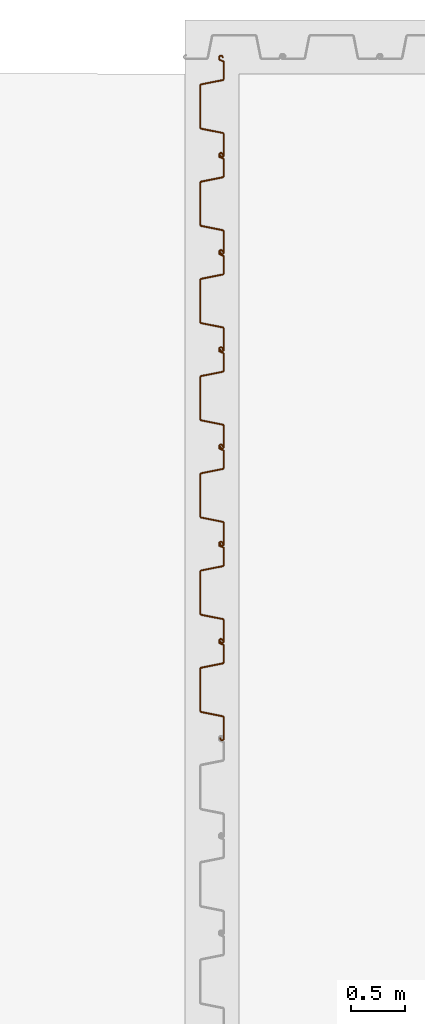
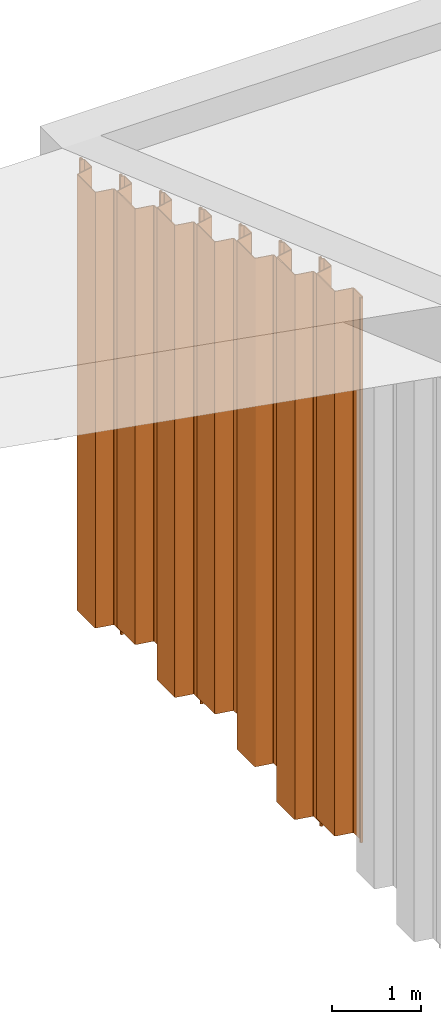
# One storey, part 14 of 32: 7 proxies.
"""IFC2X3 building model written with IfcOpenShell, lengths in millimetres."""

from ifc_helpers import new_model, entity, si_unit, converted_unit, derived_unit, direction, frame, frame_2d, origin, place, context, subcontext, project, spatial, polyline, circle_curve, parameter, trimmed, segment, composite_curve, outline, extrude, source, transform, mapped, type_object, type_shapes, element, save


model = new_model("IFC2X3")

# Units and contexts
model_context = context("Model", 3, precision=0.01, world=origin(), true_north=direction((6.12303176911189e-17, 1.0)))
body_context = subcontext(model_context, "Body", "Model", "MODEL_VIEW")
ifc_project = project(units=[si_unit("LENGTHUNIT", "METRE", prefix="MILLI"), si_unit("AREAUNIT", "SQUARE_METRE"), si_unit("VOLUMEUNIT", "CUBIC_METRE"), converted_unit("PLANEANGLEUNIT", "DEGREE", entity("IfcRatioMeasure", 0.0174532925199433), si_unit("PLANEANGLEUNIT", "RADIAN"), dimensions=[0, 0, 0, 0, 0, 0, 0]), si_unit("MASSUNIT", "GRAM", prefix="KILO"), derived_unit("MASSDENSITYUNIT", [(si_unit("MASSUNIT", "GRAM", prefix="KILO"), 1), (si_unit("LENGTHUNIT", "METRE"), -3)]), si_unit("TIMEUNIT", "SECOND"), si_unit("FREQUENCYUNIT", "HERTZ"), si_unit("THERMODYNAMICTEMPERATUREUNIT", "DEGREE_CELSIUS"), derived_unit("THERMALTRANSMITTANCEUNIT", [(si_unit("MASSUNIT", "GRAM", prefix="KILO"), 1), (si_unit("THERMODYNAMICTEMPERATUREUNIT", "KELVIN"), -1), (si_unit("TIMEUNIT", "SECOND"), -3)]), derived_unit("VOLUMETRICFLOWRATEUNIT", [(si_unit("LENGTHUNIT", "METRE"), 3), (si_unit("TIMEUNIT", "SECOND"), -1)]), si_unit("ELECTRICCURRENTUNIT", "AMPERE"), si_unit("ELECTRICVOLTAGEUNIT", "VOLT"), si_unit("POWERUNIT", "WATT"), si_unit("FORCEUNIT", "NEWTON", prefix="KILO"), si_unit("ILLUMINANCEUNIT", "LUX"), si_unit("LUMINOUSFLUXUNIT", "LUMEN"), si_unit("LUMINOUSINTENSITYUNIT", "CANDELA"), derived_unit("USERDEFINED", [(si_unit("MASSUNIT", "GRAM", prefix="KILO"), -1), (si_unit("LENGTHUNIT", "METRE"), -2), (si_unit("TIMEUNIT", "SECOND"), 3), (si_unit("LUMINOUSFLUXUNIT", "LUMEN"), 1)]), derived_unit("LINEARVELOCITYUNIT", [(si_unit("LENGTHUNIT", "METRE"), 1), (si_unit("TIMEUNIT", "SECOND"), -1)]), si_unit("PRESSUREUNIT", "PASCAL"), derived_unit("USERDEFINED", [(si_unit("LENGTHUNIT", "METRE"), -2), (si_unit("MASSUNIT", "GRAM", prefix="KILO"), 1), (si_unit("TIMEUNIT", "SECOND"), -2)])], contexts=[model_context])

# Site, building, storey
site_placement = place(None, origin())
site = spatial("IfcSite", under=ifc_project, at=site_placement, Name="Default", CompositionType="ELEMENT")
building_placement = place(site_placement, origin())
building = spatial("IfcBuilding", under=site, at=building_placement, CompositionType="ELEMENT")
storey_placement = place(building_placement, origin())
storey = spatial("IfcBuildingStorey", under=building, at=storey_placement, Name="矢板", CompositionType="ELEMENT", Elevation=0.0)

# Proxies
building_element_proxy_type_1 = type_object("IfcBuildingElementProxyType", Name="鋼矢板10H型", PredefinedType="NOTDEFINED")
shared_shape_1 = source(origin(), body_context, "Body", "SweptSolid", [
    extrude(outline(composite_curve([segment(trimmed(circle_curve(frame_2d((85.3662976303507, 306.644432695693), x_axis=(0.422618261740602, 0.906307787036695)), 13.885714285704), [parameter(24.9999999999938)], [parameter(90.0000000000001)], True, "PARAMETER"), True, "CONTINUOUS"), segment(polyline([(72.7815666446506, 312.512789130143), (9.8129512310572, 177.476157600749)]), True, "CONTINUOUS"), segment(trimmed(circle_curve(frame_2d((29.3891994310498, 168.347603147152), x_axis=(0.422618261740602, 0.906307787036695)), 21.6), [parameter(90.0000000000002)], [parameter(168.69006752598)], True, "PARAMETER"), True, "CONTINUOUS"), segment(polyline([(16.598697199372, 150.941769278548), (175.329723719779, 34.2998683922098)]), True, "CONTINUOUS"), segment(trimmed(circle_curve(frame_2d((168.93447260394, 25.596951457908), x_axis=(0.422618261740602, 0.906307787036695)), 10.7999999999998), [parameter(270.0)], [parameter(348.690067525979)], True, "PARAMETER"), False, "CONTINUOUS"), segment(polyline([(178.722596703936, 21.0326742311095), (18.2974003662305, -323.000269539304)]), True, "CONTINUOUS"), segment(trimmed(circle_curve(frame_2d((8.50927626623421, -318.435992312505), x_axis=(0.422618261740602, 0.906307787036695)), 10.8), [parameter(191.30993247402)], [parameter(269.999999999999)], True, "PARAMETER"), False, "CONTINUOUS"), segment(polyline([(5.95324328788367, -328.929166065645), (-185.429973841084, -282.310113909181)]), True, "CONTINUOUS"), segment(trimmed(circle_curve(frame_2d((-190.542039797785, -303.296461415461), x_axis=(0.422618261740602, 0.906307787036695)), 21.6000000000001), [parameter(11.3099324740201)], [parameter(90.0000000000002)], True, "PARAMETER"), True, "CONTINUOUS"), segment(polyline([(-210.118287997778, -294.167906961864), (-290.330886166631, -466.184378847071)]), True, "CONTINUOUS"), segment(trimmed(circle_curve(frame_2d((-270.754637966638, -475.312933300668), x_axis=(0.422618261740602, 0.906307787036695)), 21.6), [parameter(90.0000000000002)], [parameter(269.999999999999)], True, "PARAMETER"), True, "CONTINUOUS"), segment(polyline([(-251.178389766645, -484.441487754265), (-249.065298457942, -479.909948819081)]), True, "CONTINUOUS"), segment(polyline([(-249.065298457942, -479.909948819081), (-258.853422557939, -475.345671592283)]), True, "CONTINUOUS"), segment(polyline([(-258.853422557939, -475.345671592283), (-260.966513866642, -479.877210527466)]), True, "CONTINUOUS"), segment(trimmed(circle_curve(frame_2d((-270.754637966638, -475.312933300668), x_axis=(0.422618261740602, 0.906307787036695)), 10.8), [parameter(90.0000000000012)], [parameter(270.0)], True, "PARAMETER"), False, "CONTINUOUS"), segment(polyline([(-280.542762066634, -470.748656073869), (-200.330163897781, -298.732184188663)]), True, "CONTINUOUS"), segment(trimmed(circle_curve(frame_2d((-190.542039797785, -303.296461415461), x_axis=(0.422618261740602, 0.906307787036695)), 10.8), [parameter(11.3099324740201)], [parameter(89.9999999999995)], True, "PARAMETER"), False, "CONTINUOUS"), segment(polyline([(-187.986006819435, -292.803287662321), (3.39721030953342, -339.422339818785)]), True, "CONTINUOUS"), segment(trimmed(circle_curve(frame_2d((8.50927626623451, -318.435992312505), x_axis=(0.422618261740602, 0.906307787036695)), 21.6), [parameter(191.30993247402)], [parameter(270.0)], True, "PARAMETER"), True, "CONTINUOUS"), segment(polyline([(28.0855244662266, -327.564546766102), (188.510720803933, 16.4683970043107)]), True, "CONTINUOUS"), segment(trimmed(circle_curve(frame_2d((168.93447260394, 25.5969514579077), x_axis=(0.422618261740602, 0.906307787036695)), 21.6), [parameter(270.0)], [parameter(348.69006752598)], True, "PARAMETER"), True, "CONTINUOUS"), segment(polyline([(181.724974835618, 43.0027853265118), (22.9939483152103, 159.644686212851)]), True, "CONTINUOUS"), segment(trimmed(circle_curve(frame_2d((29.3891994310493, 168.347603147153), x_axis=(0.422618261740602, 0.906307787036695)), 10.7999999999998), [parameter(89.9999999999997)], [parameter(168.690067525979)], True, "PARAMETER"), False, "CONTINUOUS"), segment(polyline([(19.6010753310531, 172.911880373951), (82.5696907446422, 307.948511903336)]), True, "CONTINUOUS"), segment(trimmed(circle_curve(frame_2d((85.3662976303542, 306.64443269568), x_axis=(0.422618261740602, 0.906307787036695)), 3.08571428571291), [parameter(25.0000000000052)], [parameter(90.0000000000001)], True, "PARAMETER"), False, "CONTINUOUS"), segment(polyline([(85.3662976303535, 309.730146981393), (122.220231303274, 309.730146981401)]), True, "CONTINUOUS"), segment(trimmed(circle_curve(frame_2d((122.220231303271, 323.615861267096), x_axis=(0.422618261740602, 0.906307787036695)), 13.8857142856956), [parameter(205.000000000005)], [parameter(270.0)], True, "PARAMETER"), True, "CONTINUOUS"), segment(polyline([(134.804962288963, 317.747504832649), (141.079261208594, 331.202782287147)]), True, "CONTINUOUS"), segment(trimmed(circle_curve(frame_2d((121.503013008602, 340.331336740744), x_axis=(0.422618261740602, 0.906307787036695)), 21.6), [parameter(270.0)], [parameter(90.0000000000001)], True, "PARAMETER"), True, "CONTINUOUS"), segment(polyline([(101.926764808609, 349.459891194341), (99.8136734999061, 344.928352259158)]), True, "CONTINUOUS"), segment(polyline([(99.8136734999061, 344.928352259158), (109.601797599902, 340.364075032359)]), True, "CONTINUOUS"), segment(polyline([(109.601797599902, 340.364075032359), (111.714888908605, 344.895613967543)]), True, "CONTINUOUS"), segment(trimmed(circle_curve(frame_2d((121.503013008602, 340.331336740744), x_axis=(0.422618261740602, 0.906307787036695)), 10.8), [parameter(270.0)], [parameter(89.9999999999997)], True, "PARAMETER"), False, "CONTINUOUS"), segment(polyline([(131.291137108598, 335.767059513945), (125.01683818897, 322.311782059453)]), True, "CONTINUOUS"), segment(trimmed(circle_curve(frame_2d((122.220231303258, 323.615861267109), x_axis=(0.422618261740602, 0.906307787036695)), 3.08571428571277), [parameter(204.999999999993)], [parameter(270.0)], True, "PARAMETER"), False, "CONTINUOUS"), segment(polyline([(122.220231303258, 320.530146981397), (85.3662976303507, 320.530146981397)]), True, "CONTINUOUS")], self_intersect=False)), frame((95.205667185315, -48.8888888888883, -6000.0), z_axis=(0.0, 0.0, -1.0), x_axis=(0.4226182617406, 0.906307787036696, 0.0)), (0.0, 0.0, -1.0), 6000.0),
])
type_shapes(building_element_proxy_type_1, [shared_shape_1])
for number, where, z_axis, x_axis in (
    (1, (-128208.0, 28151.0, 7852.0), (0.0, 0.0, 1.0), (0.0, 1.0, 0.0)),
    (2, (-128208.0, 27251.0, 8170.0), (0.0, 0.0, 1.0), (0.0, 1.0, 0.0)),
):
    element("IfcBuildingElementProxy", number, at=place(storey_placement, frame(where, z_axis=z_axis, x_axis=x_axis)), inside=storey, type_object=building_element_proxy_type_1, Name="鋼矢板10H型:鋼矢板10H型", ObjectType="鋼矢板10H型:鋼矢板10H型", context=body_context, shape_type="MappedRepresentation", body=[
        mapped(shared_shape_1, transform((0.0, 0.0, 0.0), scale=1.0)),
    ])
building_element_proxy_type_2 = type_object("IfcBuildingElementProxyType", Name="鋼矢板10H型", PredefinedType="NOTDEFINED")
shared_shape_2 = source(origin(), body_context, "Body", "SweptSolid", [
    extrude(outline(composite_curve([segment(trimmed(circle_curve(frame_2d((85.3662976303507, 306.644432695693), x_axis=(0.422618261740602, 0.906307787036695)), 13.885714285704), [parameter(24.9999999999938)], [parameter(90.0000000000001)], True, "PARAMETER"), True, "CONTINUOUS"), segment(polyline([(72.7815666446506, 312.512789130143), (9.8129512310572, 177.476157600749)]), True, "CONTINUOUS"), segment(trimmed(circle_curve(frame_2d((29.3891994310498, 168.347603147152), x_axis=(0.422618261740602, 0.906307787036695)), 21.6), [parameter(90.0000000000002)], [parameter(168.69006752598)], True, "PARAMETER"), True, "CONTINUOUS"), segment(polyline([(16.598697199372, 150.941769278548), (175.329723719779, 34.2998683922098)]), True, "CONTINUOUS"), segment(trimmed(circle_curve(frame_2d((168.93447260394, 25.596951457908), x_axis=(0.422618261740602, 0.906307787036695)), 10.7999999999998), [parameter(270.0)], [parameter(348.690067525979)], True, "PARAMETER"), False, "CONTINUOUS"), segment(polyline([(178.722596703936, 21.0326742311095), (18.2974003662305, -323.000269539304)]), True, "CONTINUOUS"), segment(trimmed(circle_curve(frame_2d((8.50927626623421, -318.435992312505), x_axis=(0.422618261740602, 0.906307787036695)), 10.8), [parameter(191.30993247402)], [parameter(269.999999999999)], True, "PARAMETER"), False, "CONTINUOUS"), segment(polyline([(5.95324328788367, -328.929166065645), (-185.429973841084, -282.310113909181)]), True, "CONTINUOUS"), segment(trimmed(circle_curve(frame_2d((-190.542039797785, -303.296461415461), x_axis=(0.422618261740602, 0.906307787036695)), 21.6000000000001), [parameter(11.3099324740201)], [parameter(90.0000000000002)], True, "PARAMETER"), True, "CONTINUOUS"), segment(polyline([(-210.118287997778, -294.167906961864), (-290.330886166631, -466.184378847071)]), True, "CONTINUOUS"), segment(trimmed(circle_curve(frame_2d((-270.754637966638, -475.312933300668), x_axis=(0.422618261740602, 0.906307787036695)), 21.6), [parameter(90.0000000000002)], [parameter(269.999999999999)], True, "PARAMETER"), True, "CONTINUOUS"), segment(polyline([(-251.178389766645, -484.441487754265), (-249.065298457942, -479.909948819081)]), True, "CONTINUOUS"), segment(polyline([(-249.065298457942, -479.909948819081), (-258.853422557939, -475.345671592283)]), True, "CONTINUOUS"), segment(polyline([(-258.853422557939, -475.345671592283), (-260.966513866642, -479.877210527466)]), True, "CONTINUOUS"), segment(trimmed(circle_curve(frame_2d((-270.754637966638, -475.312933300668), x_axis=(0.422618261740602, 0.906307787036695)), 10.8), [parameter(90.0000000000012)], [parameter(270.0)], True, "PARAMETER"), False, "CONTINUOUS"), segment(polyline([(-280.542762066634, -470.748656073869), (-200.330163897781, -298.732184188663)]), True, "CONTINUOUS"), segment(trimmed(circle_curve(frame_2d((-190.542039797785, -303.296461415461), x_axis=(0.422618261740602, 0.906307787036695)), 10.8), [parameter(11.3099324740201)], [parameter(89.9999999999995)], True, "PARAMETER"), False, "CONTINUOUS"), segment(polyline([(-187.986006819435, -292.803287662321), (3.39721030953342, -339.422339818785)]), True, "CONTINUOUS"), segment(trimmed(circle_curve(frame_2d((8.50927626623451, -318.435992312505), x_axis=(0.422618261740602, 0.906307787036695)), 21.6), [parameter(191.30993247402)], [parameter(270.0)], True, "PARAMETER"), True, "CONTINUOUS"), segment(polyline([(28.0855244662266, -327.564546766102), (188.510720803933, 16.4683970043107)]), True, "CONTINUOUS"), segment(trimmed(circle_curve(frame_2d((168.93447260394, 25.5969514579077), x_axis=(0.422618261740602, 0.906307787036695)), 21.6), [parameter(270.0)], [parameter(348.69006752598)], True, "PARAMETER"), True, "CONTINUOUS"), segment(polyline([(181.724974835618, 43.0027853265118), (22.9939483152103, 159.644686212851)]), True, "CONTINUOUS"), segment(trimmed(circle_curve(frame_2d((29.3891994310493, 168.347603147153), x_axis=(0.422618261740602, 0.906307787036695)), 10.7999999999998), [parameter(89.9999999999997)], [parameter(168.690067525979)], True, "PARAMETER"), False, "CONTINUOUS"), segment(polyline([(19.6010753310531, 172.911880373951), (82.5696907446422, 307.948511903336)]), True, "CONTINUOUS"), segment(trimmed(circle_curve(frame_2d((85.3662976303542, 306.64443269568), x_axis=(0.422618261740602, 0.906307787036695)), 3.08571428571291), [parameter(25.0000000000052)], [parameter(90.0000000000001)], True, "PARAMETER"), False, "CONTINUOUS"), segment(polyline([(85.3662976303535, 309.730146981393), (122.220231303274, 309.730146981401)]), True, "CONTINUOUS"), segment(trimmed(circle_curve(frame_2d((122.220231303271, 323.615861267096), x_axis=(0.422618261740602, 0.906307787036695)), 13.8857142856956), [parameter(205.000000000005)], [parameter(270.0)], True, "PARAMETER"), True, "CONTINUOUS"), segment(polyline([(134.804962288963, 317.747504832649), (141.079261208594, 331.202782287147)]), True, "CONTINUOUS"), segment(trimmed(circle_curve(frame_2d((121.503013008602, 340.331336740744), x_axis=(0.422618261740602, 0.906307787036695)), 21.6), [parameter(270.0)], [parameter(90.0000000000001)], True, "PARAMETER"), True, "CONTINUOUS"), segment(polyline([(101.926764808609, 349.459891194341), (99.8136734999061, 344.928352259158)]), True, "CONTINUOUS"), segment(polyline([(99.8136734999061, 344.928352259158), (109.601797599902, 340.364075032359)]), True, "CONTINUOUS"), segment(polyline([(109.601797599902, 340.364075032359), (111.714888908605, 344.895613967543)]), True, "CONTINUOUS"), segment(trimmed(circle_curve(frame_2d((121.503013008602, 340.331336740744), x_axis=(0.422618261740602, 0.906307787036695)), 10.8), [parameter(270.0)], [parameter(89.9999999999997)], True, "PARAMETER"), False, "CONTINUOUS"), segment(polyline([(131.291137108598, 335.767059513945), (125.01683818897, 322.311782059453)]), True, "CONTINUOUS"), segment(trimmed(circle_curve(frame_2d((122.220231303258, 323.615861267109), x_axis=(0.422618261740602, 0.906307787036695)), 3.08571428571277), [parameter(204.999999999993)], [parameter(270.0)], True, "PARAMETER"), False, "CONTINUOUS"), segment(polyline([(122.220231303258, 320.530146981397), (85.3662976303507, 320.530146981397)]), True, "CONTINUOUS")], self_intersect=False)), frame((95.205667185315, -48.8888888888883, -6500.0), z_axis=(0.0, 0.0, -1.0), x_axis=(0.4226182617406, 0.906307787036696, 0.0)), (0.0, 0.0, -1.0), 6500.0),
])
type_shapes(building_element_proxy_type_2, [shared_shape_2])
for number, where, z_axis, x_axis in (
    (3, (-128208.0, 26351.0, 8489.0), (0.0, 0.0, 1.0), (0.0, 1.0, 0.0)),
    (4, (-128208.0, 25451.0, 8807.0), (0.0, 0.0, 1.0), (0.0, 1.0, 0.0)),
):
    element("IfcBuildingElementProxy", number, at=place(storey_placement, frame(where, z_axis=z_axis, x_axis=x_axis)), inside=storey, type_object=building_element_proxy_type_2, Name="鋼矢板10H型:鋼矢板10H型", ObjectType="鋼矢板10H型:鋼矢板10H型", context=body_context, shape_type="MappedRepresentation", body=[
        mapped(shared_shape_2, transform((0.0, 0.0, 0.0), scale=1.0)),
    ])
building_element_proxy_type_3 = type_object("IfcBuildingElementProxyType", Name="鋼矢板10H型", PredefinedType="NOTDEFINED")
shared_shape_3 = source(origin(), body_context, "Body", "SweptSolid", [
    extrude(outline(composite_curve([segment(trimmed(circle_curve(frame_2d((85.3662976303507, 306.644432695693), x_axis=(0.422618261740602, 0.906307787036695)), 13.885714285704), [parameter(24.9999999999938)], [parameter(90.0000000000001)], True, "PARAMETER"), True, "CONTINUOUS"), segment(polyline([(72.7815666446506, 312.512789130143), (9.8129512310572, 177.476157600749)]), True, "CONTINUOUS"), segment(trimmed(circle_curve(frame_2d((29.3891994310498, 168.347603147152), x_axis=(0.422618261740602, 0.906307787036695)), 21.6), [parameter(90.0000000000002)], [parameter(168.69006752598)], True, "PARAMETER"), True, "CONTINUOUS"), segment(polyline([(16.598697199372, 150.941769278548), (175.329723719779, 34.2998683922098)]), True, "CONTINUOUS"), segment(trimmed(circle_curve(frame_2d((168.93447260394, 25.596951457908), x_axis=(0.422618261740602, 0.906307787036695)), 10.7999999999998), [parameter(270.0)], [parameter(348.690067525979)], True, "PARAMETER"), False, "CONTINUOUS"), segment(polyline([(178.722596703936, 21.0326742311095), (18.2974003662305, -323.000269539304)]), True, "CONTINUOUS"), segment(trimmed(circle_curve(frame_2d((8.50927626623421, -318.435992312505), x_axis=(0.422618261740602, 0.906307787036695)), 10.8), [parameter(191.30993247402)], [parameter(269.999999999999)], True, "PARAMETER"), False, "CONTINUOUS"), segment(polyline([(5.95324328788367, -328.929166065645), (-185.429973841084, -282.310113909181)]), True, "CONTINUOUS"), segment(trimmed(circle_curve(frame_2d((-190.542039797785, -303.296461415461), x_axis=(0.422618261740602, 0.906307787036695)), 21.6000000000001), [parameter(11.3099324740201)], [parameter(90.0000000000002)], True, "PARAMETER"), True, "CONTINUOUS"), segment(polyline([(-210.118287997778, -294.167906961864), (-290.330886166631, -466.184378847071)]), True, "CONTINUOUS"), segment(trimmed(circle_curve(frame_2d((-270.754637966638, -475.312933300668), x_axis=(0.422618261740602, 0.906307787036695)), 21.6), [parameter(90.0000000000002)], [parameter(269.999999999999)], True, "PARAMETER"), True, "CONTINUOUS"), segment(polyline([(-251.178389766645, -484.441487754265), (-249.065298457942, -479.909948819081)]), True, "CONTINUOUS"), segment(polyline([(-249.065298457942, -479.909948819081), (-258.853422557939, -475.345671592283)]), True, "CONTINUOUS"), segment(polyline([(-258.853422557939, -475.345671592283), (-260.966513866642, -479.877210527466)]), True, "CONTINUOUS"), segment(trimmed(circle_curve(frame_2d((-270.754637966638, -475.312933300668), x_axis=(0.422618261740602, 0.906307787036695)), 10.8), [parameter(90.0000000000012)], [parameter(270.0)], True, "PARAMETER"), False, "CONTINUOUS"), segment(polyline([(-280.542762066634, -470.748656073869), (-200.330163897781, -298.732184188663)]), True, "CONTINUOUS"), segment(trimmed(circle_curve(frame_2d((-190.542039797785, -303.296461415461), x_axis=(0.422618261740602, 0.906307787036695)), 10.8), [parameter(11.3099324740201)], [parameter(89.9999999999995)], True, "PARAMETER"), False, "CONTINUOUS"), segment(polyline([(-187.986006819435, -292.803287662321), (3.39721030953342, -339.422339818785)]), True, "CONTINUOUS"), segment(trimmed(circle_curve(frame_2d((8.50927626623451, -318.435992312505), x_axis=(0.422618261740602, 0.906307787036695)), 21.6), [parameter(191.30993247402)], [parameter(270.0)], True, "PARAMETER"), True, "CONTINUOUS"), segment(polyline([(28.0855244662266, -327.564546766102), (188.510720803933, 16.4683970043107)]), True, "CONTINUOUS"), segment(trimmed(circle_curve(frame_2d((168.93447260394, 25.5969514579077), x_axis=(0.422618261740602, 0.906307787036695)), 21.6), [parameter(270.0)], [parameter(348.69006752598)], True, "PARAMETER"), True, "CONTINUOUS"), segment(polyline([(181.724974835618, 43.0027853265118), (22.9939483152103, 159.644686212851)]), True, "CONTINUOUS"), segment(trimmed(circle_curve(frame_2d((29.3891994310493, 168.347603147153), x_axis=(0.422618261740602, 0.906307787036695)), 10.7999999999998), [parameter(89.9999999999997)], [parameter(168.690067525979)], True, "PARAMETER"), False, "CONTINUOUS"), segment(polyline([(19.6010753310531, 172.911880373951), (82.5696907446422, 307.948511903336)]), True, "CONTINUOUS"), segment(trimmed(circle_curve(frame_2d((85.3662976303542, 306.64443269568), x_axis=(0.422618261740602, 0.906307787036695)), 3.08571428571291), [parameter(25.0000000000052)], [parameter(90.0000000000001)], True, "PARAMETER"), False, "CONTINUOUS"), segment(polyline([(85.3662976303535, 309.730146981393), (122.220231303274, 309.730146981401)]), True, "CONTINUOUS"), segment(trimmed(circle_curve(frame_2d((122.220231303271, 323.615861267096), x_axis=(0.422618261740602, 0.906307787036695)), 13.8857142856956), [parameter(205.000000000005)], [parameter(270.0)], True, "PARAMETER"), True, "CONTINUOUS"), segment(polyline([(134.804962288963, 317.747504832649), (141.079261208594, 331.202782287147)]), True, "CONTINUOUS"), segment(trimmed(circle_curve(frame_2d((121.503013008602, 340.331336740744), x_axis=(0.422618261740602, 0.906307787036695)), 21.6), [parameter(270.0)], [parameter(90.0000000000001)], True, "PARAMETER"), True, "CONTINUOUS"), segment(polyline([(101.926764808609, 349.459891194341), (99.8136734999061, 344.928352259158)]), True, "CONTINUOUS"), segment(polyline([(99.8136734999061, 344.928352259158), (109.601797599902, 340.364075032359)]), True, "CONTINUOUS"), segment(polyline([(109.601797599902, 340.364075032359), (111.714888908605, 344.895613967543)]), True, "CONTINUOUS"), segment(trimmed(circle_curve(frame_2d((121.503013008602, 340.331336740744), x_axis=(0.422618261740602, 0.906307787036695)), 10.8), [parameter(270.0)], [parameter(89.9999999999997)], True, "PARAMETER"), False, "CONTINUOUS"), segment(polyline([(131.291137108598, 335.767059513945), (125.01683818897, 322.311782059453)]), True, "CONTINUOUS"), segment(trimmed(circle_curve(frame_2d((122.220231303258, 323.615861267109), x_axis=(0.422618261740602, 0.906307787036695)), 3.08571428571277), [parameter(204.999999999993)], [parameter(270.0)], True, "PARAMETER"), False, "CONTINUOUS"), segment(polyline([(122.220231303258, 320.530146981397), (85.3662976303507, 320.530146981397)]), True, "CONTINUOUS")], self_intersect=False)), frame((95.205667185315, -48.8888888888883, -7000.0), z_axis=(0.0, 0.0, -1.0), x_axis=(0.4226182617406, 0.906307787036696, 0.0)), (0.0, 0.0, -1.0), 7000.0),
])
type_shapes(building_element_proxy_type_3, [shared_shape_3])
proxy_placement = place(storey_placement, frame((-128208.0, 24551.0, 9126.0), z_axis=(0.0, 0.0, 1.0), x_axis=(0.0, 1.0, 0.0)))
element("IfcBuildingElementProxy", 5, at=proxy_placement, inside=storey, type_object=building_element_proxy_type_3, Name="鋼矢板10H型:鋼矢板10H型", ObjectType="鋼矢板10H型:鋼矢板10H型", context=body_context, shape_type="MappedRepresentation", body=[
    mapped(shared_shape_3, transform((0.0, 0.0, 0.0), scale=1.0)),
])
building_element_proxy_type_4 = type_object("IfcBuildingElementProxyType", Name="鋼矢板10H型", PredefinedType="NOTDEFINED")
shared_shape_4 = source(origin(), body_context, "Body", "SweptSolid", [
    extrude(outline(composite_curve([segment(trimmed(circle_curve(frame_2d((85.3662976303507, 306.644432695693), x_axis=(0.422618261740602, 0.906307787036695)), 13.885714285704), [parameter(24.9999999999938)], [parameter(90.0000000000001)], True, "PARAMETER"), True, "CONTINUOUS"), segment(polyline([(72.7815666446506, 312.512789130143), (9.8129512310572, 177.476157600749)]), True, "CONTINUOUS"), segment(trimmed(circle_curve(frame_2d((29.3891994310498, 168.347603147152), x_axis=(0.422618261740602, 0.906307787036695)), 21.6), [parameter(90.0000000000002)], [parameter(168.69006752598)], True, "PARAMETER"), True, "CONTINUOUS"), segment(polyline([(16.598697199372, 150.941769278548), (175.329723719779, 34.2998683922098)]), True, "CONTINUOUS"), segment(trimmed(circle_curve(frame_2d((168.93447260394, 25.596951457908), x_axis=(0.422618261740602, 0.906307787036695)), 10.7999999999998), [parameter(270.0)], [parameter(348.690067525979)], True, "PARAMETER"), False, "CONTINUOUS"), segment(polyline([(178.722596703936, 21.0326742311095), (18.2974003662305, -323.000269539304)]), True, "CONTINUOUS"), segment(trimmed(circle_curve(frame_2d((8.50927626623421, -318.435992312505), x_axis=(0.422618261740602, 0.906307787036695)), 10.8), [parameter(191.30993247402)], [parameter(269.999999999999)], True, "PARAMETER"), False, "CONTINUOUS"), segment(polyline([(5.95324328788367, -328.929166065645), (-185.429973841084, -282.310113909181)]), True, "CONTINUOUS"), segment(trimmed(circle_curve(frame_2d((-190.542039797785, -303.296461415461), x_axis=(0.422618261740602, 0.906307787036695)), 21.6000000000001), [parameter(11.3099324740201)], [parameter(90.0000000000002)], True, "PARAMETER"), True, "CONTINUOUS"), segment(polyline([(-210.118287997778, -294.167906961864), (-290.330886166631, -466.184378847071)]), True, "CONTINUOUS"), segment(trimmed(circle_curve(frame_2d((-270.754637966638, -475.312933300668), x_axis=(0.422618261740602, 0.906307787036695)), 21.6), [parameter(90.0000000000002)], [parameter(269.999999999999)], True, "PARAMETER"), True, "CONTINUOUS"), segment(polyline([(-251.178389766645, -484.441487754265), (-249.065298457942, -479.909948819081)]), True, "CONTINUOUS"), segment(polyline([(-249.065298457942, -479.909948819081), (-258.853422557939, -475.345671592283)]), True, "CONTINUOUS"), segment(polyline([(-258.853422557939, -475.345671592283), (-260.966513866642, -479.877210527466)]), True, "CONTINUOUS"), segment(trimmed(circle_curve(frame_2d((-270.754637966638, -475.312933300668), x_axis=(0.422618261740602, 0.906307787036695)), 10.8), [parameter(90.0000000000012)], [parameter(270.0)], True, "PARAMETER"), False, "CONTINUOUS"), segment(polyline([(-280.542762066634, -470.748656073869), (-200.330163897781, -298.732184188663)]), True, "CONTINUOUS"), segment(trimmed(circle_curve(frame_2d((-190.542039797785, -303.296461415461), x_axis=(0.422618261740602, 0.906307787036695)), 10.8), [parameter(11.3099324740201)], [parameter(89.9999999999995)], True, "PARAMETER"), False, "CONTINUOUS"), segment(polyline([(-187.986006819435, -292.803287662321), (3.39721030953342, -339.422339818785)]), True, "CONTINUOUS"), segment(trimmed(circle_curve(frame_2d((8.50927626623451, -318.435992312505), x_axis=(0.422618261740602, 0.906307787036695)), 21.6), [parameter(191.30993247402)], [parameter(270.0)], True, "PARAMETER"), True, "CONTINUOUS"), segment(polyline([(28.0855244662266, -327.564546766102), (188.510720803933, 16.4683970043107)]), True, "CONTINUOUS"), segment(trimmed(circle_curve(frame_2d((168.93447260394, 25.5969514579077), x_axis=(0.422618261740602, 0.906307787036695)), 21.6), [parameter(270.0)], [parameter(348.69006752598)], True, "PARAMETER"), True, "CONTINUOUS"), segment(polyline([(181.724974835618, 43.0027853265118), (22.9939483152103, 159.644686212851)]), True, "CONTINUOUS"), segment(trimmed(circle_curve(frame_2d((29.3891994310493, 168.347603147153), x_axis=(0.422618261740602, 0.906307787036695)), 10.7999999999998), [parameter(89.9999999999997)], [parameter(168.690067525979)], True, "PARAMETER"), False, "CONTINUOUS"), segment(polyline([(19.6010753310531, 172.911880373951), (82.5696907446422, 307.948511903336)]), True, "CONTINUOUS"), segment(trimmed(circle_curve(frame_2d((85.3662976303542, 306.64443269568), x_axis=(0.422618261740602, 0.906307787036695)), 3.08571428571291), [parameter(25.0000000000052)], [parameter(90.0000000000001)], True, "PARAMETER"), False, "CONTINUOUS"), segment(polyline([(85.3662976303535, 309.730146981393), (122.220231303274, 309.730146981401)]), True, "CONTINUOUS"), segment(trimmed(circle_curve(frame_2d((122.220231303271, 323.615861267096), x_axis=(0.422618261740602, 0.906307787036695)), 13.8857142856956), [parameter(205.000000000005)], [parameter(270.0)], True, "PARAMETER"), True, "CONTINUOUS"), segment(polyline([(134.804962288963, 317.747504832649), (141.079261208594, 331.202782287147)]), True, "CONTINUOUS"), segment(trimmed(circle_curve(frame_2d((121.503013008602, 340.331336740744), x_axis=(0.422618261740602, 0.906307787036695)), 21.6), [parameter(270.0)], [parameter(90.0000000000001)], True, "PARAMETER"), True, "CONTINUOUS"), segment(polyline([(101.926764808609, 349.459891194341), (99.8136734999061, 344.928352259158)]), True, "CONTINUOUS"), segment(polyline([(99.8136734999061, 344.928352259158), (109.601797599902, 340.364075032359)]), True, "CONTINUOUS"), segment(polyline([(109.601797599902, 340.364075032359), (111.714888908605, 344.895613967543)]), True, "CONTINUOUS"), segment(trimmed(circle_curve(frame_2d((121.503013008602, 340.331336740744), x_axis=(0.422618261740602, 0.906307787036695)), 10.8), [parameter(270.0)], [parameter(89.9999999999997)], True, "PARAMETER"), False, "CONTINUOUS"), segment(polyline([(131.291137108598, 335.767059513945), (125.01683818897, 322.311782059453)]), True, "CONTINUOUS"), segment(trimmed(circle_curve(frame_2d((122.220231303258, 323.615861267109), x_axis=(0.422618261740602, 0.906307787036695)), 3.08571428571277), [parameter(204.999999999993)], [parameter(270.0)], True, "PARAMETER"), False, "CONTINUOUS"), segment(polyline([(122.220231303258, 320.530146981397), (85.3662976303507, 320.530146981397)]), True, "CONTINUOUS")], self_intersect=False)), frame((95.205667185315, -48.8888888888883, -7500.0), z_axis=(0.0, 0.0, -1.0), x_axis=(0.4226182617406, 0.906307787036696, 0.0)), (0.0, 0.0, -1.0), 7500.0),
])
type_shapes(building_element_proxy_type_4, [shared_shape_4])
for number, where, z_axis, x_axis in (
    (6, (-128208.0, 23651.0, 9444.0), (0.0, 0.0, 1.0), (0.0, 1.0, 0.0)),
    (7, (-128208.0, 22751.0, 9763.0), (0.0, 0.0, 1.0), (0.0, 1.0, 0.0)),
):
    element("IfcBuildingElementProxy", number, at=place(storey_placement, frame(where, z_axis=z_axis, x_axis=x_axis)), inside=storey, type_object=building_element_proxy_type_4, Name="鋼矢板10H型:鋼矢板10H型", ObjectType="鋼矢板10H型:鋼矢板10H型", context=body_context, shape_type="MappedRepresentation", body=[
        mapped(shared_shape_4, transform((0.0, 0.0, 0.0), scale=1.0)),
    ])

save(model, "model.ifc")
